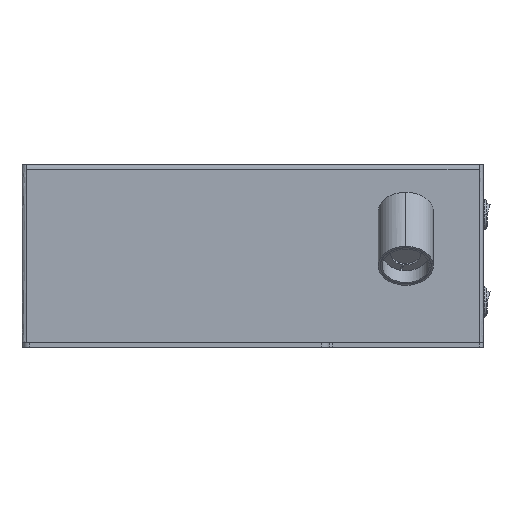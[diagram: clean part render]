
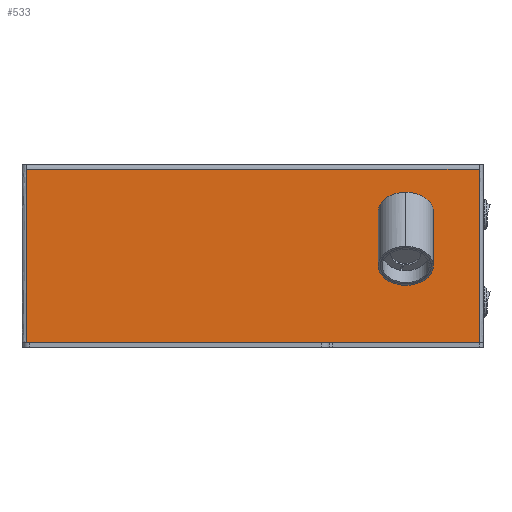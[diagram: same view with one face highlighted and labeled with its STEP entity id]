
A CAD part, front view. The second image highlights one B-rep face of the part: STEP entity #533.
In plain terms, the highlighted planar face has unit normal (0, -1, 0).
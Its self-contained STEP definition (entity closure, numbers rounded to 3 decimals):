
#20=FACE_BOUND('',#6805,.T.);
#533=ADVANCED_FACE('',(#3666,#20),#49441,.T.);
#3666=FACE_OUTER_BOUND('',#6804,.T.);
#6804=EDGE_LOOP('',(#10579,#10580,#10581,#10582));
#6805=EDGE_LOOP('',(#10583,#10584));
#10579=ORIENTED_EDGE('',*,*,#27240,.T.);
#10580=ORIENTED_EDGE('',*,*,#27239,.T.);
#10581=ORIENTED_EDGE('',*,*,#27238,.T.);
#10582=ORIENTED_EDGE('',*,*,#27301,.T.);
#10583=ORIENTED_EDGE('',*,*,#27179,.F.);
#10584=ORIENTED_EDGE('',*,*,#27347,.T.);
#27179=EDGE_CURVE('',#44063,#44064,#41867,.T.);
#27238=EDGE_CURVE('',#44127,#44122,#35625,.T.);
#27239=EDGE_CURVE('',#44128,#44127,#35626,.T.);
#27240=EDGE_CURVE('',#44115,#44128,#35627,.T.);
#27301=EDGE_CURVE('',#44122,#44115,#35680,.T.);
#27347=EDGE_CURVE('',#44063,#44064,#41911,.T.);
#35625=B_SPLINE_CURVE_WITH_KNOTS('',1,(#59087,#59088),.UNSPECIFIED.,.F.,
 .F.,(2,2),(-113.25,0.),.UNSPECIFIED.);
#35626=B_SPLINE_CURVE_WITH_KNOTS('',1,(#59089,#59090),.UNSPECIFIED.,.F.,
 .F.,(2,2),(-295.8,0.),.UNSPECIFIED.);
#35627=B_SPLINE_CURVE_WITH_KNOTS('',1,(#59091,#59092),.UNSPECIFIED.,.F.,
 .F.,(2,2),(-113.25,0.),.UNSPECIFIED.);
#35680=B_SPLINE_CURVE_WITH_KNOTS('',1,(#59221,#59222),.UNSPECIFIED.,.F.,
 .F.,(2,2),(0.,295.8),.UNSPECIFIED.);
#41867=(
BOUNDED_CURVE()
B_SPLINE_CURVE(2,(#58947,#58948,#58949,#58950,#58951),.UNSPECIFIED.,.F.,
 .F.)
B_SPLINE_CURVE_WITH_KNOTS((3,2,3),(-9.582,-4.791,
0.),.UNSPECIFIED.)
CURVE()
GEOMETRIC_REPRESENTATION_ITEM()
RATIONAL_B_SPLINE_CURVE((1.,0.707,1.,0.707,1.))
REPRESENTATION_ITEM('')
);
#41911=(
BOUNDED_CURVE()
B_SPLINE_CURVE(2,(#59355,#59356,#59357,#59358,#59359),.UNSPECIFIED.,.F.,
 .F.)
B_SPLINE_CURVE_WITH_KNOTS((3,2,3),(0.,4.791,9.582),
 .UNSPECIFIED.)
CURVE()
GEOMETRIC_REPRESENTATION_ITEM()
RATIONAL_B_SPLINE_CURVE((1.,0.707,1.,0.707,1.))
REPRESENTATION_ITEM('')
);
#44063=VERTEX_POINT('',#58813);
#44064=VERTEX_POINT('',#58814);
#44115=VERTEX_POINT('',#58865);
#44122=VERTEX_POINT('',#58872);
#44127=VERTEX_POINT('',#58877);
#44128=VERTEX_POINT('',#58878);
#49441=PLANE('',#52515);
#52515=AXIS2_PLACEMENT_3D('',#58429,#54505,$);
#54505=DIRECTION('',(0.,-1.,0.));
#58429=CARTESIAN_POINT('',(1055.48,92.937,129.563));
#58813=CARTESIAN_POINT('',(981.05,92.937,89.388));
#58814=CARTESIAN_POINT('',(974.95,92.937,89.388));
#58865=CARTESIAN_POINT('',(730.1,92.937,118.238));
#58872=CARTESIAN_POINT('',(1025.9,92.937,118.238));
#58877=CARTESIAN_POINT('',(1025.9,92.937,4.988));
#58878=CARTESIAN_POINT('',(730.1,92.937,4.988));
#58947=CARTESIAN_POINT('',(981.05,92.937,89.388));
#58948=CARTESIAN_POINT('',(981.05,92.937,92.438));
#58949=CARTESIAN_POINT('',(978.,92.937,92.438));
#58950=CARTESIAN_POINT('',(974.95,92.937,92.438));
#58951=CARTESIAN_POINT('',(974.95,92.937,89.388));
#59087=CARTESIAN_POINT('',(1025.9,92.937,4.988));
#59088=CARTESIAN_POINT('',(1025.9,92.937,118.238));
#59089=CARTESIAN_POINT('',(730.1,92.937,4.988));
#59090=CARTESIAN_POINT('',(1025.9,92.937,4.988));
#59091=CARTESIAN_POINT('',(730.1,92.937,118.238));
#59092=CARTESIAN_POINT('',(730.1,92.937,4.988));
#59221=CARTESIAN_POINT('',(1025.9,92.937,118.238));
#59222=CARTESIAN_POINT('',(730.1,92.937,118.238));
#59355=CARTESIAN_POINT('',(981.05,92.937,89.388));
#59356=CARTESIAN_POINT('',(981.05,92.937,86.338));
#59357=CARTESIAN_POINT('',(978.,92.937,86.338));
#59358=CARTESIAN_POINT('',(974.95,92.937,86.338));
#59359=CARTESIAN_POINT('',(974.95,92.937,89.388));
